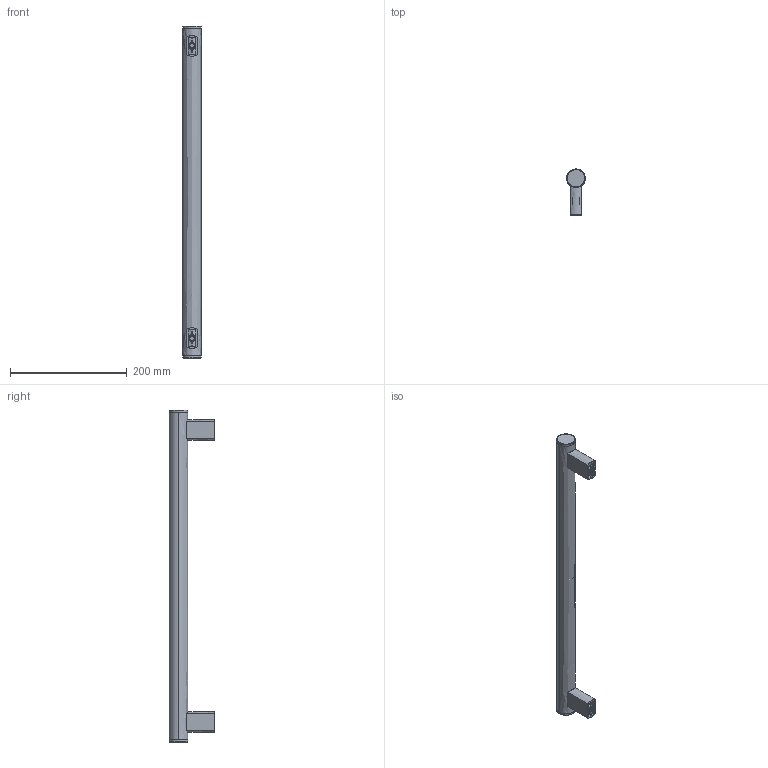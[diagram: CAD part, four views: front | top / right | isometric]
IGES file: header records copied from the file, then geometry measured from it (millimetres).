
Start section: SolidWorks IGES file using analytic representation for surfaces
Global section: file name: C:\Documents and Settings\Deathkiller\桌面\3D IGES\U型把手\MS-737-2 sus\p=500.IGS; native system: SolidWorks 2006 by SolidWorks Corporation; preprocessor: SolidWorks 2006 by SolidWorks Corporation; author: Deathkiller; date: 080624.131450; units: millimetre
Bounding box: 31.8 x 77.9 x 568 mm (x, y, z)
Surface area: 136561 mm2 (no closed solid volume)
Topology: 0 solids, 0 shells, 190 faces, 5022 edges, 5022 vertices
Faces by surface type: revolution 142, bspline 48
